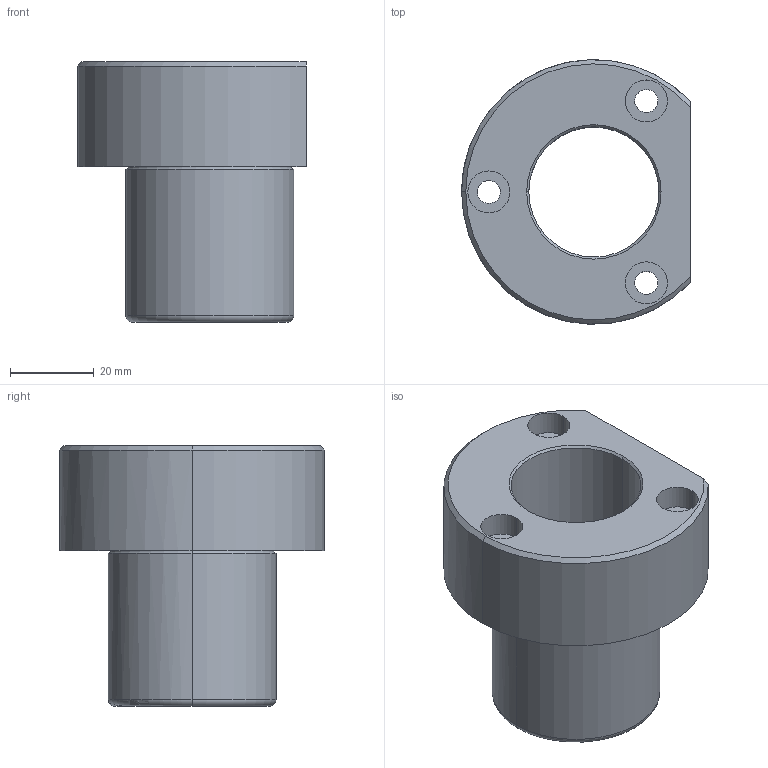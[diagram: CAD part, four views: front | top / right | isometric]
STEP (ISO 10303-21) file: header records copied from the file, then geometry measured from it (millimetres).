
FILE_DESCRIPTION(('CATIA V5 STEP Exchange'),'2;1');
FILE_NAME('C:\Users\Utente\Desktop\IO LAVORO\3D X SITO CF\X SITO\737\737-25.stp','2021-01-17T17:05:22+00:00',('none'),('none'),'CATIA Version 5 Release 20 GA (IN-10)','CATIA V5 STEP AP203','none');
FILE_SCHEMA(('CONFIG_CONTROL_DESIGN'));
Length unit declared in the file: millimetre
Products named in the file (1): 737-25
Bounding box: 54.5 x 62.98 x 62 mm (x, y, z)
Volume: 68354.7 mm3; surface area: 21111.5 mm2
Topology: 1 solids, 1 shells, 37 faces, 82 edges, 51 vertices
Faces by surface type: cylinder 18, plane 7, cone 6, torus 6
Entity records: 1247 total; most frequent: CARTESIAN_POINT 402, ORIENTED_EDGE 164, DIRECTION 141, EDGE_CURVE 82, AXIS2_PLACEMENT_3D 79, VERTEX_POINT 51, EDGE_LOOP 49, CIRCLE 41
